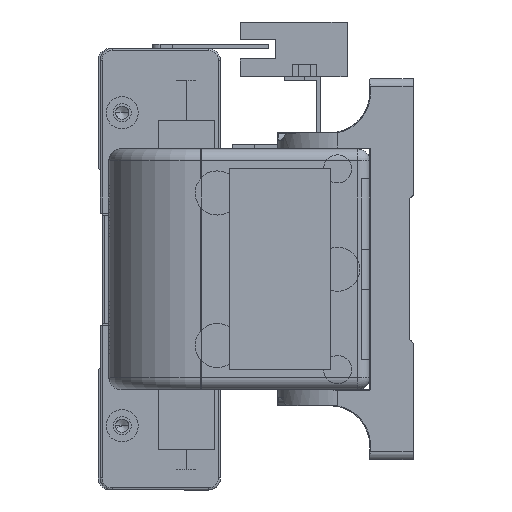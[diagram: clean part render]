
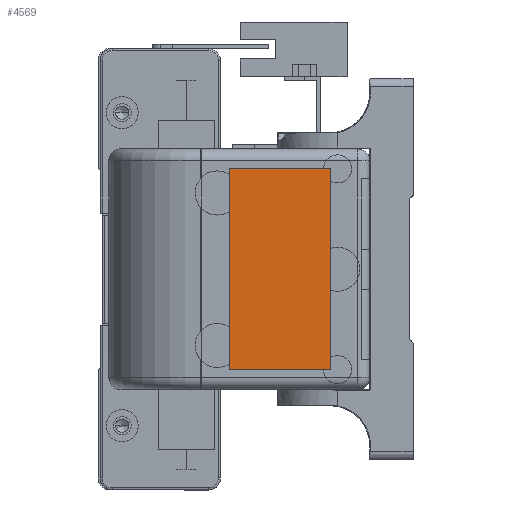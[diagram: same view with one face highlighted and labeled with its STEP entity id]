
A CAD part, left-side view. The second image highlights one B-rep face of the part: STEP entity #4569.
In plain terms, the highlighted planar face has unit normal (-1, 0, 0) as drawn and (1, 0, 0) by its records, which use the part's own axes.
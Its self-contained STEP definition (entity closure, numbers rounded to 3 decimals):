
#266 = EDGE_CURVE ( 'NONE', #5314, #14087, #9000, .T. ) ;
#2588 = AXIS2_PLACEMENT_3D ( 'NONE', #27956, #20981, #6824 ) ;
#3813 = DIRECTION ( 'NONE',  ( 0., 0., -1. ) ) ;
#3973 = ORIENTED_EDGE ( 'NONE', *, *, #14071, .T. ) ;
#4445 = PLANE ( 'NONE',  #2588 ) ;
#4569 = ADVANCED_FACE ( 'N', ( #12123 ), #4445, .T. ) ;
#4843 = LINE ( 'NONE', #25013, #28475 ) ;
#5030 = CARTESIAN_POINT ( 'NONE',  ( 23.3, 9.83, 55. ) ) ;
#5314 = VERTEX_POINT ( 'NONE', #5030 ) ;
#6038 = DIRECTION ( 'NONE',  ( 0., 1., 0. ) ) ;
#6047 = CARTESIAN_POINT ( 'NONE',  ( 23.3, 35., 55. ) ) ;
#6824 = DIRECTION ( 'NONE',  ( 0., 0., -1. ) ) ;
#6873 = EDGE_CURVE ( 'NONE', #14087, #12088, #22283, .T. ) ;
#8248 = VECTOR ( 'NONE', #3813, 1000. ) ;
#9000 = LINE ( 'NONE', #20877, #8248 ) ;
#9749 = CARTESIAN_POINT ( 'NONE',  ( 23.3, 35., 55. ) ) ;
#10281 = VERTEX_POINT ( 'NONE', #9749 ) ;
#10812 = CARTESIAN_POINT ( 'NONE',  ( 23.3, 35., 4.898 ) ) ;
#10824 = DIRECTION ( 'NONE',  ( 0., 0., 1. ) ) ;
#11594 = VECTOR ( 'NONE', #10824, 1000. ) ;
#12088 = VERTEX_POINT ( 'NONE', #21600 ) ;
#12123 = FACE_OUTER_BOUND ( 'NONE', #21484, .T. ) ;
#12879 = EDGE_CURVE ( 'NONE', #12088, #10281, #17116, .T. ) ;
#13710 = ORIENTED_EDGE ( 'NONE', *, *, #266, .T. ) ;
#14071 = EDGE_CURVE ( 'NONE', #10281, #5314, #4843, .T. ) ;
#14087 = VERTEX_POINT ( 'NONE', #23282 ) ;
#17116 = LINE ( 'NONE', #6047, #11594 ) ;
#17149 = ORIENTED_EDGE ( 'NONE', *, *, #12879, .T. ) ;
#20877 = CARTESIAN_POINT ( 'NONE',  ( 23.3, 9.83, 55. ) ) ;
#20981 = DIRECTION ( 'NONE',  ( 1., 0., 0. ) ) ;
#21484 = EDGE_LOOP ( 'NONE', ( #3973, #13710, #30548, #17149 ) ) ;
#21600 = CARTESIAN_POINT ( 'NONE',  ( 23.3, 35., 4.898 ) ) ;
#22283 = LINE ( 'NONE', #10812, #28542 ) ;
#23282 = CARTESIAN_POINT ( 'NONE',  ( 23.3, 9.83, 4.898 ) ) ;
#25013 = CARTESIAN_POINT ( 'NONE',  ( 23.3, 35., 55. ) ) ;
#25125 = DIRECTION ( 'NONE',  ( 0., -1., 0. ) ) ;
#27956 = CARTESIAN_POINT ( 'NONE',  ( 23.3, 0., 0. ) ) ;
#28475 = VECTOR ( 'NONE', #25125, 1000. ) ;
#28542 = VECTOR ( 'NONE', #6038, 1000. ) ;
#30548 = ORIENTED_EDGE ( 'NONE', *, *, #6873, .T. ) ;
